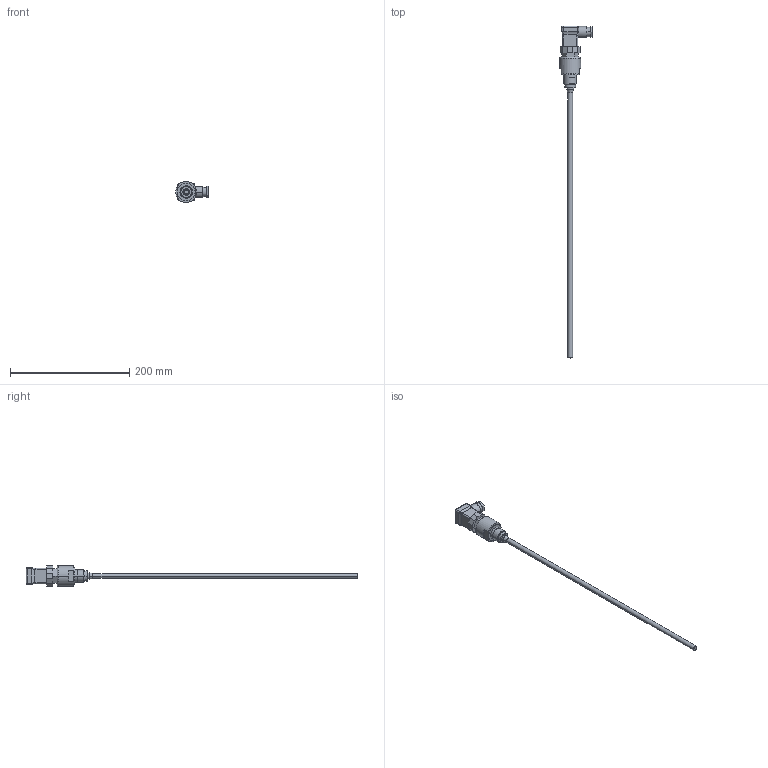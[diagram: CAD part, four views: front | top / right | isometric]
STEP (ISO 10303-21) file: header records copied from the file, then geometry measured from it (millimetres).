
FILE_DESCRIPTION((''),'2;1');
FILE_NAME('CAT_I_600','2024-11-15T11:46:24',('LGZ'),(''),'CREO PARAMETRIC BY PTC INC, 2023072','CREO PARAMETRIC BY PTC INC, 2023072','');
FILE_SCHEMA(('AUTOMOTIVE_DESIGN { 1 0 10303 214 1 1 1 1 }'));
Length unit declared in the file: millimetre
Products named in the file (1): CAT_I_600
Bounding box: 54.5 x 556 x 35 mm (x, y, z)
Volume: 96686.4 mm3; surface area: 27412.7 mm2
Topology: 1 solids, 4 shells, 121 faces, 281 edges, 173 vertices
Faces by surface type: plane 54, cylinder 41, bspline 12, cone 8, sphere 4, torus 2
Entity records: 4053 total; most frequent: CARTESIAN_POINT 1147, DIRECTION 577, ORIENTED_EDGE 550, EDGE_CURVE 279, AXIS2_PLACEMENT_3D 212, VERTEX_POINT 173, VECTOR 153, LINE 153
